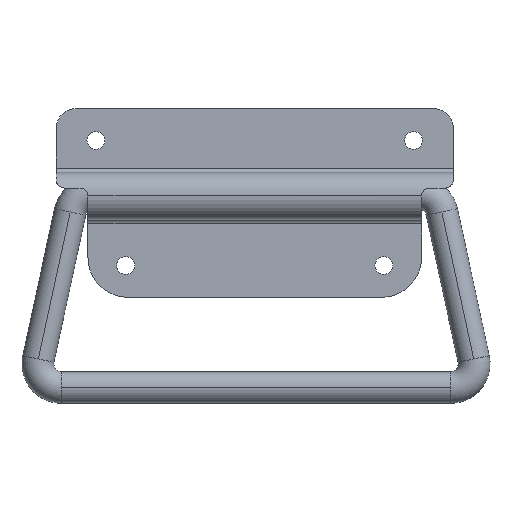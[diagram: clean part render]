
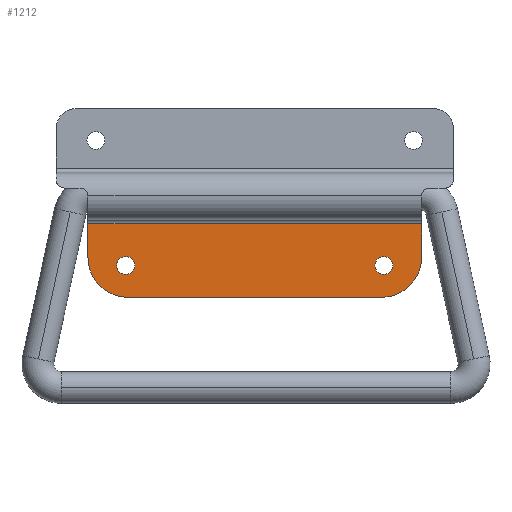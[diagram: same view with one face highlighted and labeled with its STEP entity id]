
A CAD part, left-side view. The second image highlights one B-rep face of the part: STEP entity #1212.
In plain terms, the highlighted planar face has unit normal (-1, 0, 0) as drawn and (0, 1, 0) by its records, which use the part's own axes.
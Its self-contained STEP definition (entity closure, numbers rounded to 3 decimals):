
#403=CARTESIAN_POINT('',(5.,-88.683,38.507));
#404=VERTEX_POINT('',#403);
#412=CARTESIAN_POINT('',(89.0,-88.683,38.507));
#413=VERTEX_POINT('',#412);
#414=CARTESIAN_POINT('',(5.,-88.683,38.507));
#415=DIRECTION('',(1.0,0.0,0.0));
#416=VECTOR('',#415,84.0);
#417=LINE('',#414,#416);
#418=EDGE_CURVE('',#404,#413,#417,.T.);
#865=CARTESIAN_POINT('',(86.071,-88.683,54.079));
#866=VERTEX_POINT('',#865);
#882=CARTESIAN_POINT('',(89.0,-88.683,47.007));
#883=VERTEX_POINT('',#882);
#890=CARTESIAN_POINT('',(79.0,-88.683,47.007));
#891=DIRECTION('',(0.0,-1.,0.0));
#892=DIRECTION('',(0.707,0.0,0.707));
#893=AXIS2_PLACEMENT_3D('',#890,#891,#892);
#894=CIRCLE('',#893,10.);
#895=EDGE_CURVE('',#883,#866,#894,.T.);
#905=CARTESIAN_POINT('',(7.929,-88.683,54.079));
#906=VERTEX_POINT('',#905);
#915=CARTESIAN_POINT('',(5.,-88.683,47.007));
#916=VERTEX_POINT('',#915);
#917=CARTESIAN_POINT('',(15.0,-88.683,47.007));
#918=DIRECTION('',(0.0,-1.,0.0));
#919=DIRECTION('',(-0.707,0.0,0.707));
#920=AXIS2_PLACEMENT_3D('',#917,#918,#919);
#921=CIRCLE('',#920,10.);
#922=EDGE_CURVE('',#906,#916,#921,.T.);
#949=CARTESIAN_POINT('',(14.5,-88.683,51.257));
#950=VERTEX_POINT('',#949);
#966=CARTESIAN_POINT('',(14.5,-88.683,46.757));
#967=VERTEX_POINT('',#966);
#974=CARTESIAN_POINT('',(14.5,-88.683,49.007));
#975=DIRECTION('',(0.0,-1.0,0.0));
#976=DIRECTION('',(0.0,0.0,1.0));
#977=AXIS2_PLACEMENT_3D('',#974,#975,#976);
#978=CIRCLE('',#977,2.25);
#979=EDGE_CURVE('',#950,#967,#978,.T.);
#991=CARTESIAN_POINT('',(79.5,-88.683,51.257));
#992=VERTEX_POINT('',#991);
#1008=CARTESIAN_POINT('',(79.5,-88.683,46.757));
#1009=VERTEX_POINT('',#1008);
#1016=CARTESIAN_POINT('',(79.5,-88.683,49.007));
#1017=DIRECTION('',(0.0,-1.0,0.0));
#1018=DIRECTION('',(0.0,0.0,1.0));
#1019=AXIS2_PLACEMENT_3D('',#1016,#1017,#1018);
#1020=CIRCLE('',#1019,2.25);
#1021=EDGE_CURVE('',#992,#1009,#1020,.T.);
#1032=CARTESIAN_POINT('',(79.5,-88.683,49.007));
#1033=DIRECTION('',(0.0,-1.0,0.0));
#1034=DIRECTION('',(0.0,0.0,1.0));
#1035=AXIS2_PLACEMENT_3D('',#1032,#1033,#1034);
#1036=CIRCLE('',#1035,2.25);
#1037=EDGE_CURVE('',#1009,#992,#1036,.T.);
#1056=CARTESIAN_POINT('',(14.5,-88.683,49.007));
#1057=DIRECTION('',(0.0,-1.0,0.0));
#1058=DIRECTION('',(0.0,0.0,1.0));
#1059=AXIS2_PLACEMENT_3D('',#1056,#1057,#1058);
#1060=CIRCLE('',#1059,2.25);
#1061=EDGE_CURVE('',#967,#950,#1060,.T.);
#1089=CARTESIAN_POINT('',(15.0,-88.683,57.007));
#1090=VERTEX_POINT('',#1089);
#1097=CARTESIAN_POINT('',(15.0,-88.683,47.007));
#1098=DIRECTION('',(0.0,-1.,0.0));
#1099=DIRECTION('',(-0.707,0.0,0.707));
#1100=AXIS2_PLACEMENT_3D('',#1097,#1098,#1099);
#1101=CIRCLE('',#1100,10.);
#1102=EDGE_CURVE('',#1090,#906,#1101,.T.);
#1113=CARTESIAN_POINT('',(5.,-88.683,38.507));
#1114=DIRECTION('',(0.0,0.0,1.0));
#1115=VECTOR('',#1114,8.5);
#1116=LINE('',#1113,#1115);
#1117=EDGE_CURVE('',#404,#916,#1116,.T.);
#1171=CARTESIAN_POINT('',(-3.0,-88.683,57.007));
#1172=DIRECTION('',(0.0,1.0,0.0));
#1173=DIRECTION('',(0.0,0.0,1.0));
#1174=AXIS2_PLACEMENT_3D('',#1171,#1172,#1173);
#1175=PLANE('',#1174);
#1176=ORIENTED_EDGE('',*,*,#1102,.F.);
#1177=CARTESIAN_POINT('',(79.0,-88.683,57.007));
#1178=VERTEX_POINT('',#1177);
#1179=CARTESIAN_POINT('',(15.0,-88.683,57.007));
#1180=DIRECTION('',(1.0,0.0,0.0));
#1181=VECTOR('',#1180,64.0);
#1182=LINE('',#1179,#1181);
#1183=EDGE_CURVE('',#1090,#1178,#1182,.T.);
#1184=ORIENTED_EDGE('',*,*,#1183,.T.);
#1185=CARTESIAN_POINT('',(79.0,-88.683,47.007));
#1186=DIRECTION('',(0.0,-1.,0.0));
#1187=DIRECTION('',(0.707,0.0,0.707));
#1188=AXIS2_PLACEMENT_3D('',#1185,#1186,#1187);
#1189=CIRCLE('',#1188,10.);
#1190=EDGE_CURVE('',#866,#1178,#1189,.T.);
#1191=ORIENTED_EDGE('',*,*,#1190,.F.);
#1192=ORIENTED_EDGE('',*,*,#895,.F.);
#1193=CARTESIAN_POINT('',(89.0,-88.683,47.007));
#1194=DIRECTION('',(0.0,0.0,-1.0));
#1195=VECTOR('',#1194,8.5);
#1196=LINE('',#1193,#1195);
#1197=EDGE_CURVE('',#883,#413,#1196,.T.);
#1198=ORIENTED_EDGE('',*,*,#1197,.T.);
#1199=ORIENTED_EDGE('',*,*,#418,.F.);
#1200=ORIENTED_EDGE('',*,*,#1117,.T.);
#1201=ORIENTED_EDGE('',*,*,#922,.F.);
#1202=EDGE_LOOP('',(#1176,#1184,#1191,#1192,#1198,#1199,#1200,#1201));
#1203=FACE_OUTER_BOUND('',#1202,.T.);
#1204=ORIENTED_EDGE('',*,*,#1021,.T.);
#1205=ORIENTED_EDGE('',*,*,#1037,.T.);
#1206=EDGE_LOOP('',(#1204,#1205));
#1207=FACE_BOUND('',#1206,.T.);
#1208=ORIENTED_EDGE('',*,*,#979,.T.);
#1209=ORIENTED_EDGE('',*,*,#1061,.T.);
#1210=EDGE_LOOP('',(#1208,#1209));
#1211=FACE_BOUND('',#1210,.T.);
#1212=ADVANCED_FACE('',(#1203,#1207,#1211),#1175,.T.);
